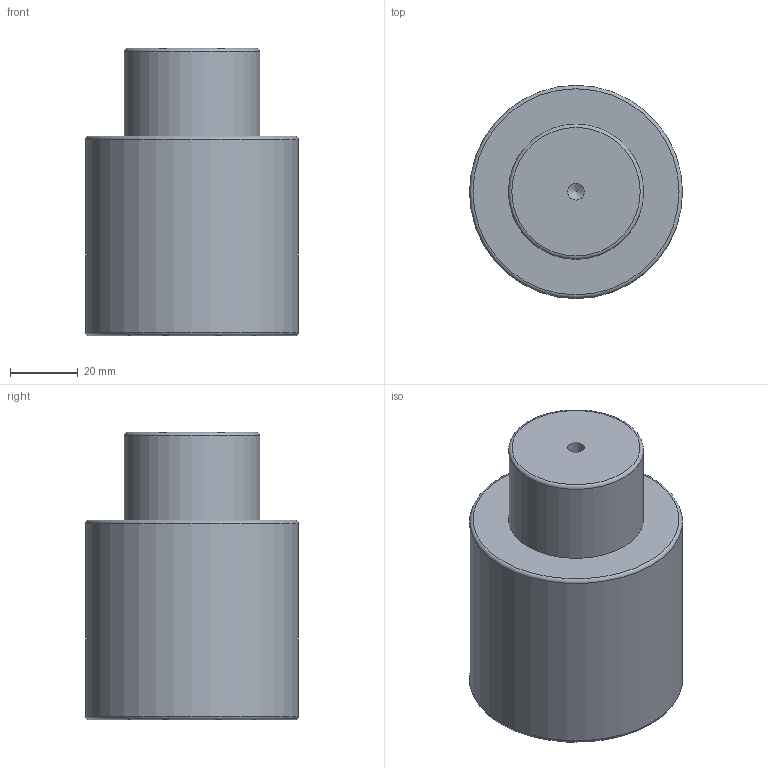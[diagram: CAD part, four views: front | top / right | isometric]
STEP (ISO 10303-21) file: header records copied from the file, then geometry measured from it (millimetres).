
FILE_DESCRIPTION(/* description */ (''),/* implementation_level */ '2;1');
FILE_NAME(/* name */ 'NV5-SMLX.63x25.stp',/* time_stamp */ '2018-08-31T16:08:31+02:00',/* author */ (''),/* organization */ (''),/* preprocessor_version */ 'ST-DEVELOPER v16',/* originating_system */ 'SIEMENS PLM Software NX 10.0',/* authorisation */ '');
FILE_SCHEMA (('AUTOMOTIVE_DESIGN { 1 0 10303 214 3 1 1 1 }'));
Length unit declared in the file: millimetre
Products named in the file (1): NV5-SMLX.63x25
Bounding box: 63 x 63 x 85 mm (x, y, z)
Volume: 215070 mm3; surface area: 21673.5 mm2
Topology: 1 solids, 1 shells, 12 faces, 24 edges, 15 vertices
Faces by surface type: cylinder 4, torus 3, plane 3, cone 2
Full cylindrical faces by diameter (mm): 5 x1, 8.5 x1, 40 x1, 63 x1
Entity records: 266 total; most frequent: DIRECTION 48, CARTESIAN_POINT 37, FACE_BOUND 24, AXIS2_PLACEMENT_3D 24, EDGE_LOOP 22, ORIENTED_EDGE 22, VERTEX_POINT 13, ADVANCED_FACE 12
